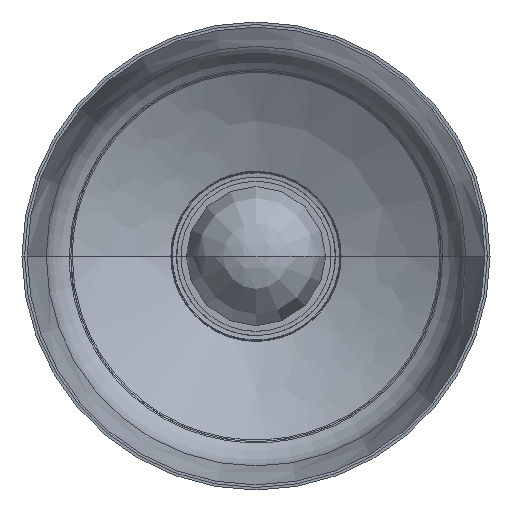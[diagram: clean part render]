
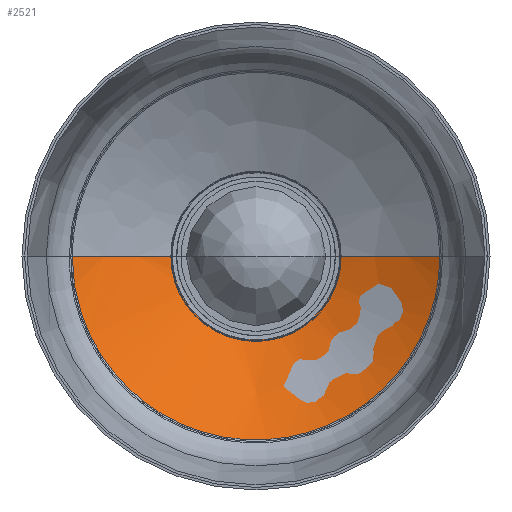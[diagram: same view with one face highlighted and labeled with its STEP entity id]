
A CAD part, top view. The second image highlights one B-rep face of the part: STEP entity #2521.
In plain terms, the highlighted free-form (B-spline) face has degree [2, 2] with [3, 5] control points.
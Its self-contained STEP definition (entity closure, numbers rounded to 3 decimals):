
#27=(
BOUNDED_CURVE()
B_SPLINE_CURVE(2,(#5679,#5680,#5681),.UNSPECIFIED.,.F.,.F.)
B_SPLINE_CURVE_WITH_KNOTS((3,3),(-1.277,-0.954),
 .UNSPECIFIED.)
CURVE()
GEOMETRIC_REPRESENTATION_ITEM()
RATIONAL_B_SPLINE_CURVE((1.,0.987,1.))
REPRESENTATION_ITEM('')
);
#28=(
BOUNDED_CURVE()
B_SPLINE_CURVE(2,(#5692,#5693,#5694),.UNSPECIFIED.,.F.,.F.)
B_SPLINE_CURVE_WITH_KNOTS((3,3),(0.954,1.277),
 .UNSPECIFIED.)
CURVE()
GEOMETRIC_REPRESENTATION_ITEM()
RATIONAL_B_SPLINE_CURVE((1.,0.987,1.))
REPRESENTATION_ITEM('')
);
#45=(
BOUNDED_SURFACE()
B_SPLINE_SURFACE(2,2,((#5663,#5664,#5665,#5666,#5667),(#5668,#5669,#5670,
#5671,#5672),(#5673,#5674,#5675,#5676,#5677)),.UNSPECIFIED.,.F.,.F.,.F.)
B_SPLINE_SURFACE_WITH_KNOTS((3,3),(3,2,3),(0.954,1.277),
(-3.142,-1.571,0.),
 .UNSPECIFIED.)
GEOMETRIC_REPRESENTATION_ITEM()
RATIONAL_B_SPLINE_SURFACE(((1.,0.707,1.,0.707,1.),
(0.987,0.698,0.987,0.698,
0.987),(1.,0.707,1.,0.707,1.)))
REPRESENTATION_ITEM('')
SURFACE()
);
#270=FACE_OUTER_BOUND('',#444,.T.);
#444=EDGE_LOOP('',(#2045,#2046,#2047,#2048));
#982=B_SPLINE_CURVE_WITH_KNOTS('',3,(#5635,#5636,#5637,#5638,#5639,#5640,
#5641,#5642,#5643,#5644,#5645),.UNSPECIFIED.,.F.,.F.,(4,1,1,1,1,1,1,1,4),
(0.,0.125,0.25,0.375,0.5,0.625,0.75,0.875,1.),.UNSPECIFIED.);
#985=B_SPLINE_CURVE_WITH_KNOTS('',3,(#5683,#5684,#5685,#5686,#5687,#5688,
#5689,#5690,#5691),.UNSPECIFIED.,.F.,.F.,(4,1,1,1,1,1,4),(0.,0.167,
0.333,0.5,0.667,0.833,1.),
 .UNSPECIFIED.);
#1163=VERTEX_POINT('',#5628);
#1164=VERTEX_POINT('',#5634);
#1165=VERTEX_POINT('',#5678);
#1166=VERTEX_POINT('',#5682);
#1460=EDGE_CURVE('',#1164,#1163,#982,.T.);
#1463=EDGE_CURVE('',#1165,#1163,#27,.T.);
#1464=EDGE_CURVE('',#1166,#1165,#985,.T.);
#1465=EDGE_CURVE('',#1164,#1166,#28,.T.);
#2045=ORIENTED_EDGE('',*,*,#1460,.T.);
#2046=ORIENTED_EDGE('',*,*,#1463,.F.);
#2047=ORIENTED_EDGE('',*,*,#1464,.F.);
#2048=ORIENTED_EDGE('',*,*,#1465,.F.);
#2521=ADVANCED_FACE('',(#270),#45,.T.);
#5628=CARTESIAN_POINT('',(72.226,0.,827.82));
#5634=CARTESIAN_POINT('',(-72.226,0.,827.82));
#5635=CARTESIAN_POINT('Ctrl Pts',(-72.226,0.,
827.82));
#5636=CARTESIAN_POINT('Ctrl Pts',(-72.321,-9.492,827.82));
#5637=CARTESIAN_POINT('Ctrl Pts',(-68.421,-28.341,827.82));
#5638=CARTESIAN_POINT('Ctrl Pts',(-52.413,-52.406,827.82));
#5639=CARTESIAN_POINT('Ctrl Pts',(-28.356,-68.464,827.82));
#5640=CARTESIAN_POINT('Ctrl Pts',(0.,-74.107,
827.82));
#5641=CARTESIAN_POINT('Ctrl Pts',(28.356,-68.464,827.82));
#5642=CARTESIAN_POINT('Ctrl Pts',(52.413,-52.406,827.82));
#5643=CARTESIAN_POINT('Ctrl Pts',(68.421,-28.341,827.82));
#5644=CARTESIAN_POINT('Ctrl Pts',(72.321,-9.492,827.82));
#5645=CARTESIAN_POINT('Ctrl Pts',(72.226,0.,
827.82));
#5663=CARTESIAN_POINT('Ctrl Pts',(72.276,0.,
827.856));
#5664=CARTESIAN_POINT('Ctrl Pts',(72.276,-72.276,827.856));
#5665=CARTESIAN_POINT('Ctrl Pts',(0.,-72.276,
827.856));
#5666=CARTESIAN_POINT('Ctrl Pts',(-72.276,-72.276,827.856));
#5667=CARTESIAN_POINT('Ctrl Pts',(-72.276,0.,
827.856));
#5668=CARTESIAN_POINT('Ctrl Pts',(54.132,0.,
814.981));
#5669=CARTESIAN_POINT('Ctrl Pts',(54.132,-54.132,814.981));
#5670=CARTESIAN_POINT('Ctrl Pts',(0.,-54.132,
814.981));
#5671=CARTESIAN_POINT('Ctrl Pts',(-54.132,-54.132,814.981));
#5672=CARTESIAN_POINT('Ctrl Pts',(-54.132,0.,
814.981));
#5673=CARTESIAN_POINT('Ctrl Pts',(32.834,0.,
808.548));
#5674=CARTESIAN_POINT('Ctrl Pts',(32.834,-32.834,808.548));
#5675=CARTESIAN_POINT('Ctrl Pts',(0.,-32.834,
808.548));
#5676=CARTESIAN_POINT('Ctrl Pts',(-32.834,-32.834,808.548));
#5677=CARTESIAN_POINT('Ctrl Pts',(-32.834,0.,808.548));
#5678=CARTESIAN_POINT('',(32.862,0.,808.556));
#5679=CARTESIAN_POINT('Ctrl Pts',(32.862,0.,
808.556));
#5680=CARTESIAN_POINT('Ctrl Pts',(54.114,0.,
814.981));
#5681=CARTESIAN_POINT('Ctrl Pts',(72.226,0.,
827.82));
#5682=CARTESIAN_POINT('',(-32.862,0.,808.556));
#5683=CARTESIAN_POINT('Ctrl Pts',(-32.862,0.,
808.556));
#5684=CARTESIAN_POINT('Ctrl Pts',(-32.99,-5.806,808.556));
#5685=CARTESIAN_POINT('Ctrl Pts',(-29.73,-17.165,808.556));
#5686=CARTESIAN_POINT('Ctrl Pts',(-17.214,-29.799,808.556));
#5687=CARTESIAN_POINT('Ctrl Pts',(0.,-34.393,
808.556));
#5688=CARTESIAN_POINT('Ctrl Pts',(17.214,-29.799,808.556));
#5689=CARTESIAN_POINT('Ctrl Pts',(29.73,-17.165,808.556));
#5690=CARTESIAN_POINT('Ctrl Pts',(32.99,-5.806,808.556));
#5691=CARTESIAN_POINT('Ctrl Pts',(32.862,0.,
808.556));
#5692=CARTESIAN_POINT('Ctrl Pts',(-72.226,0.,
827.82));
#5693=CARTESIAN_POINT('Ctrl Pts',(-54.114,0.,
814.981));
#5694=CARTESIAN_POINT('Ctrl Pts',(-32.862,0.,
808.556));
